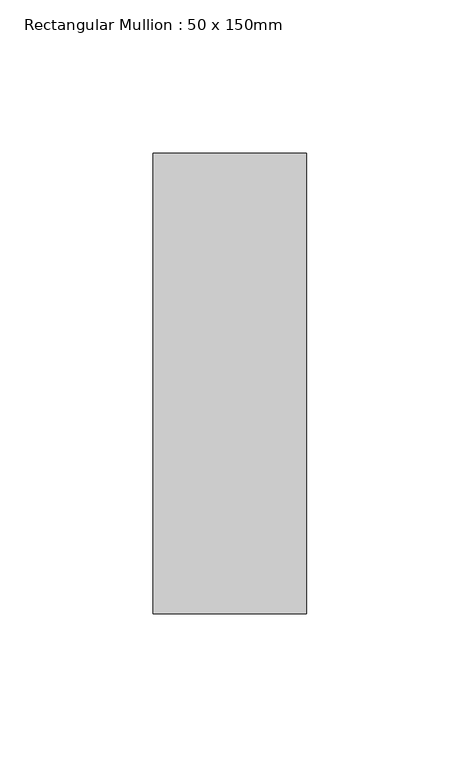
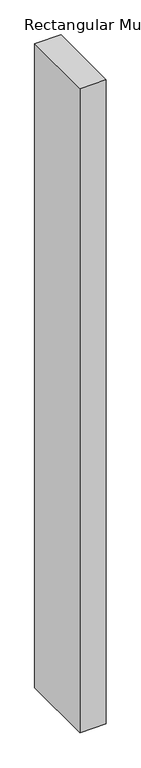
"""IFC4 building model written with IfcOpenShell, lengths in millimetres: member geometry, Rectangular Mullion : 50 x 150mm."""

from ifc_helpers import new_model, si_unit, frame, origin, place, context, project, spatial, polyline, outline, extrude, source, transform, mapped, element, save


def rectangular_mullion_50_x_150mm_f822ab76(model_context):
    return source(origin(), model_context, "Body", "SweptSolid", [
        extrude(outline(polyline([(25.0, 75.0), (25.0, -75.0), (-25.0, -75.0), (-25.0, 75.0), (25.0, 75.0)])), frame((0.0, 0.0, -1302.5212096), z_axis=(0.0, 0.0, 1.0), x_axis=(1.0, 0.0, 0.0)), (0.0, 0.0, 1.0), 1302.5212096),
    ])


if __name__ == "__main__":
    model = new_model("IFC4")
    model_context = context("Model", 3, world=origin())
    ifc_project = project(units=[si_unit("LENGTHUNIT", "METRE", prefix="MILLI")], contexts=[model_context])
    site = spatial("IfcSite", under=ifc_project)
    building = spatial("IfcBuilding", under=site)
    placement = place(None, origin())
    rectangular_mullion_50_x_150mm_shape = rectangular_mullion_50_x_150mm_f822ab76(model_context)
    element("IfcMember", 1, ObjectType="Rectangular Mullion : 50 x 150mm", at=placement, inside=building, context=model_context, shape_type="MappedRepresentation", body=[
        mapped(rectangular_mullion_50_x_150mm_shape, transform((0.0, 0.0, 0.0), x_axis=(1.0, 0.0, 0.0), y_axis=(0.0, 1.0, 0.0), z_axis=(0.0, 0.0, 1.0))),
    ])
    save(model, "model.ifc")
